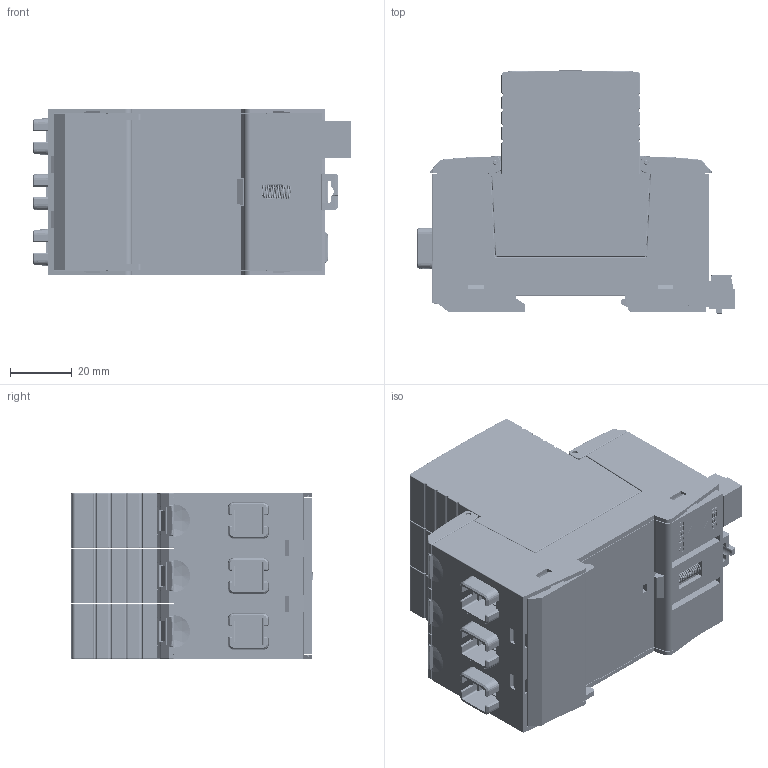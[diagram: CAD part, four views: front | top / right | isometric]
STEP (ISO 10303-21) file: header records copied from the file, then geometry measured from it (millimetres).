
FILE_DESCRIPTION(/* description */ ('Unknown'),/* implementation_level */ '2;1');
FILE_NAME(/* name */ 'SD25TXXXL312PV',/* time_stamp */ '2023-02-03T09:36:18+08:00',/* author */ ('Unknown'),/* organization */ ('Unknown'),/* preprocessor_version */ 'ST-DEVELOPER v16.7',/* originating_system */ 'Solid Edge',/* authorisation */ 'Unknown');
FILE_SCHEMA (('AUTOMOTIVE_DESIGN {1 0 10303 214 3 1 1}'));
Products named in the file (57): ASM1000000112; ASM1000000111; PRT1000000068; PRT1000000080; PRT1000000122; PRT1000000086; ASM1000000457; PRT1000000124; PRT1000000127; ASM1000000029; PRT1000000119; PRT1000000116; PRT1000000084; PRT1000000083; PRT1000000082; PRT1000000121; PRT1000000117; PRT1000000120; ASM1000000028; PRT1000000123; PRT1000000078; ASM1000000458; PRT1000000079; PRT1000001242; PRT1000001237; PRT1000001245; ASM1000000110; PRT1000000115; PRT1000000114; PRT1000000096; PRT1000000092; PRT1000000099; PRT1000001015; ASM1000000172; ASM1000000026; PRT1000000095; PRT1000000094; PRT1000000093; ASM1000000025; PRT1000000111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
Assembly tree (77 placements, depth 6):
  ASM1000000112
    ASM1000000111
      PRT1000000068
      PRT1000000080
      PRT1000000122  x3
      PRT1000000086
      ASM1000000457  x3
        PRT1000000124
        PRT1000000127
      ASM1000000029
        PRT1000000119
        PRT1000000116
        PRT1000000084
        PRT1000000083
        PRT1000000082
      PRT1000000121  x3
      PRT1000000117
      PRT1000000120
      ASM1000000028
        PRT1000000123  x3
        PRT1000000078
        ASM1000000029
          PRT1000000119
          PRT1000000116
          PRT1000000084
          PRT1000000083
          PRT1000000082
      ASM1000000458
        PRT1000000079
        PRT1000000124  x3
      PRT1000001242
      PRT1000001237  x3
      PRT1000001245  x3
    ASM1000000110  x3
      PRT1000000115
      PRT1000000114
      PRT1000000096
      PRT1000000092
      PRT1000000099
      PRT1000001015
      ASM1000000172
        ASM1000000026
          PRT1000000095
          PRT1000000094
          PRT1000000093
          ASM1000000025
            PRT1000000111
            PRT1000000110
            PRT1000000944
            PRT1000000946
            PRT1000000947
          PRT1000000101
          PRT1000003873  x2
          ASM1000000023
            PRT1000000105
            PRT1000000104
            PRT1000000103
          ASM1000000261
            PRT1000000112
            PRT1000000106
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Bounding box: 103.4 x 78.85 x 54 mm (x, y, z)
Volume: 170713.5 mm3; surface area: 310143.8 mm2
Topology: 123 solids, 123 shells, 14539 faces, 38565 edges, 24369 vertices
Faces by surface type: plane 8431, cylinder 3833, torus 970, bspline 810, sphere 414, cone 81
Full cylindrical faces by diameter (mm): 0.3 x12, 1 x6, 1.2 x9, 1.5 x48, 1.6 x6, 1.8 x18, 2 x15, 2.1 x12, 2.2 x9, 2.3 x3, 2.4 x3, 2.5 x15, 2.8 x3, 2.9 x3, 3.5 x27, 4.5 x3, 5 x3, 6 x90, 6.8 x3, 7.5 x6, 9.5 x4, 16 x3, 16.04 x6, 26 x3
Entity records: 239919 total; most frequent: CARTESIAN_POINT 69341, ORIENTED_EDGE 35046, DIRECTION 32317, EDGE_CURVE 17523, LINE 13329, VECTOR 13329, VERTEX_POINT 11369, AXIS2_PLACEMENT_3D 9494
